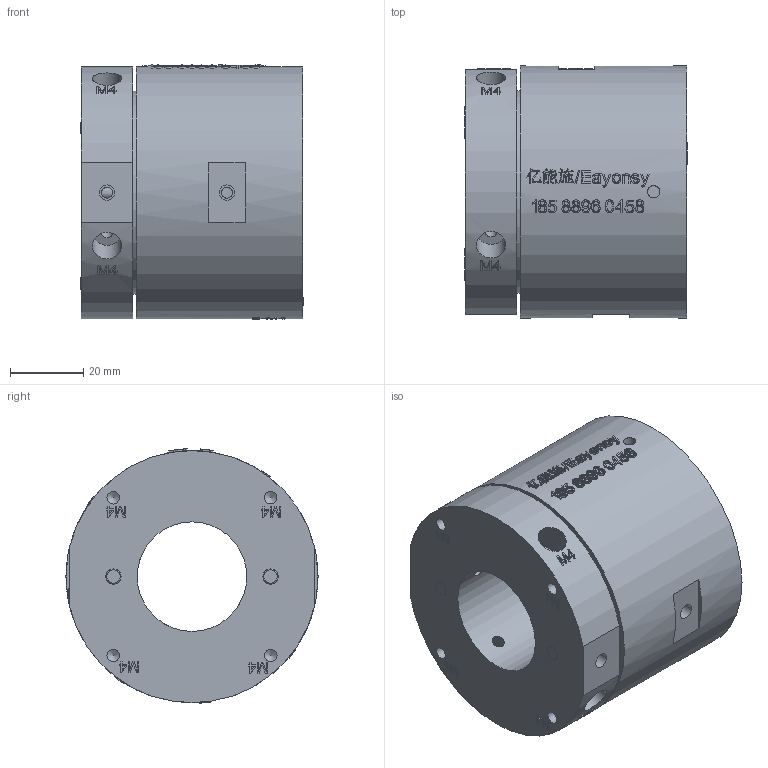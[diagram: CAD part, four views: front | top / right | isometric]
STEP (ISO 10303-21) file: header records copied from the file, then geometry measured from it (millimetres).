
FILE_DESCRIPTION(/* description */ (''),/* implementation_level */ '2;1');
FILE_NAME(/* name */ 'YQ002005-D30.stp',/* time_stamp */ '2025-09-05T10:59:42+08:00',/* author */ (''),/* organization */ (''),/* preprocessor_version */ 'ST-DEVELOPER v16.7',/* originating_system */ 'SIEMENS PLM Software NX 12.0',/* authorisation */ '');
FILE_SCHEMA (('AUTOMOTIVE_DESIGN { 1 0 10303 214 3 1 1 1 }'));
Products named in the file (1): Admi30D0F0663c1l
Bounding box: 60.9 x 69 x 69.61 mm (x, y, z)
Volume: 173399.6 mm3; surface area: 33231.8 mm2
Topology: 1 solids, 1 shells, 1300 faces, 3560 edges, 2374 vertices
Faces by surface type: extrusion 585, plane 567, cylinder 74, bspline 61, cone 13
Full cylindrical faces by diameter (mm): 2 x2, 3 x4, 3.4 x16, 4.1 x2, 4.2 x6, 8 x4, 30 x1, 43 x1, 45 x1, 55.5 x1, 58 x1, 69 x1
Entity records: 50917 total; most frequent: CARTESIAN_POINT 23059, ORIENTED_EDGE 6956, EDGE_CURVE 3478, DIRECTION 3179, B_SPLINE_CURVE_WITH_KNOTS 3093, VERTEX_POINT 2356, EDGE_LOOP 1480, ADVANCED_FACE 1300
